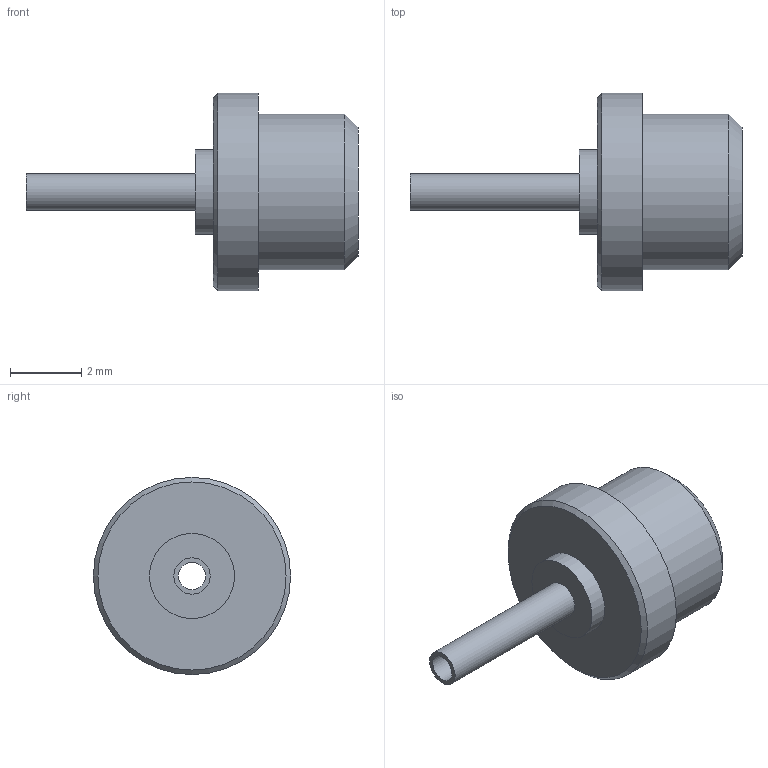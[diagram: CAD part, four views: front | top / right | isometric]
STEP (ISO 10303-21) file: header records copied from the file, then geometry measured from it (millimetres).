
FILE_DESCRIPTION(/* description */ (''),/* implementation_level */ '2;1');
FILE_NAME(/* name */ '\\Snap1\dwgs\Customer 3D Models\571\571-4240-01 Customer model.stp',/* time_stamp */ '2017-01-09T11:25:23+00:00',/* author */ ('paulk'),/* organization */ (''),/* preprocessor_version */ 'ST-DEVELOPER v15.2',/* originating_system */ 'Autodesk Inventor 2014',/* authorisation */ '');
FILE_SCHEMA (('CONFIG_CONTROL_DESIGN'));
Length unit declared in the file: millimetre
Products named in the file (1): 571-4240-01 Customer model
Bounding box: 9.32 x 5.54 x 5.54 mm (x, y, z)
Volume: 73.3 mm3; surface area: 144.4 mm2
Topology: 1 solids, 1 shells, 12 faces, 20 edges, 13 vertices
Faces by surface type: cylinder 5, plane 5, cone 2
Full cylindrical faces by diameter (mm): 0.762 x1, 1.016 x1, 2.388 x1, 4.369 x1, 5.537 x1
Entity records: 294 total; most frequent: DIRECTION 50, CARTESIAN_POINT 37, AXIS2_PLACEMENT_3D 25, EDGE_LOOP 24, ORIENTED_EDGE 24, FACE_BOUND 17, STYLED_ITEM 12, CIRCLE 12
